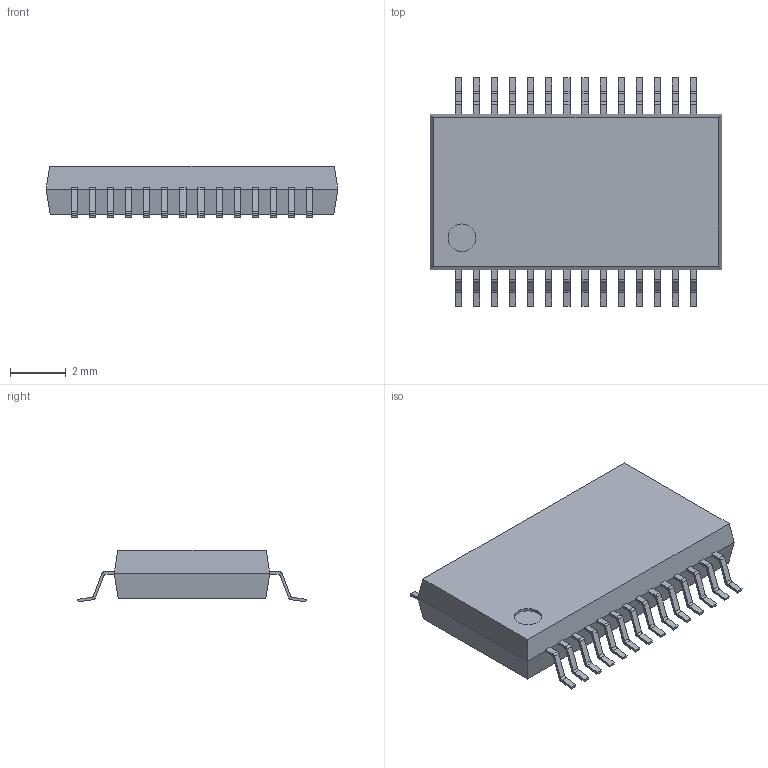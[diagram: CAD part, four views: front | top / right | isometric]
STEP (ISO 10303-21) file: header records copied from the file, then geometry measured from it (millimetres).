
FILE_DESCRIPTION (( 'STEP AP214' ), '1' );
FILE_NAME ('IC-SSOP28-AM256.STEP', '2011-05-30T13:46:45', ( '' ), ( '' ), 'SwSTEP 2.0', 'SolidWorks 2010', '' );
FILE_SCHEMA (( 'AUTOMOTIVE_DESIGN' ));
Length unit declared in the file: millimetre
Products named in the file (1): IC-SSOP28-AM256
Bounding box: 10.5 x 8.23 x 1.85 mm (x, y, z)
Volume: 100 mm3; surface area: 317.4 mm2
Topology: 30 solids, 30 shells, 491 faces, 1290 edges, 860 vertices
Faces by surface type: plane 321, cylinder 170
Entity records: 20818 total; most frequent: CARTESIAN_POINT 2642, DIRECTION 2614, ORIENTED_EDGE 2580, EDGE_CURVE 1290, VECTOR 950, LINE 950, VERTEX_POINT 860, AXIS2_PLACEMENT_3D 832
